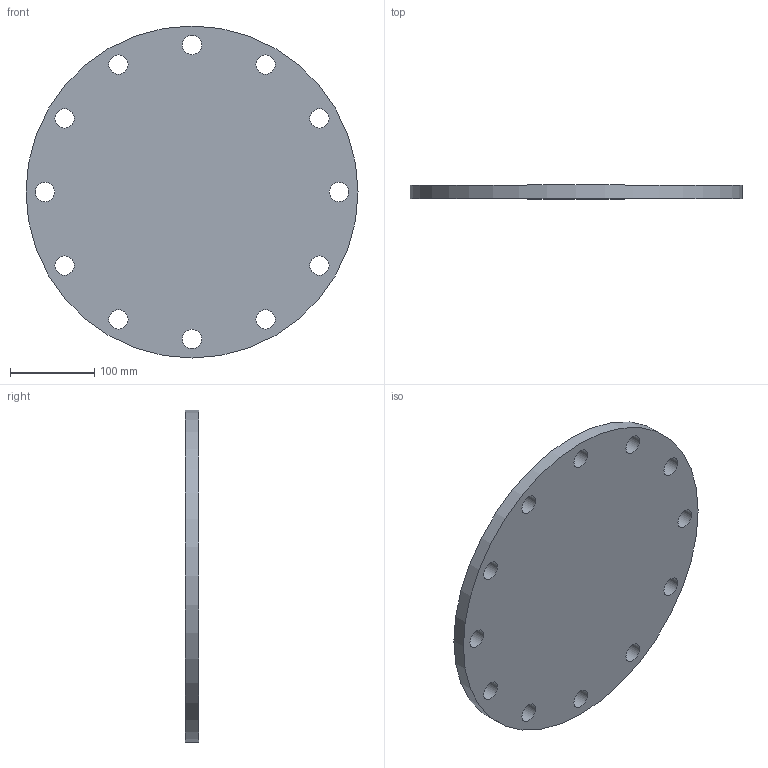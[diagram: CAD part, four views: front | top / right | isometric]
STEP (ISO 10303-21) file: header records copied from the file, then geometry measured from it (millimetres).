
FILE_DESCRIPTION(/* description */ (''),/* implementation_level */ '2;1');
FILE_NAME(/* name */ 'Z:\Geberit\Export\NewStep\371748.stp',/* time_stamp */ '2014-04-02T08:05:51+02:00',/* author */ ('nelson'),/* organization */ (''),/* preprocessor_version */ 'ST-DEVELOPER v15.2',/* originating_system */ 'Autodesk Inventor 2014',/* authorisation */ '');
FILE_SCHEMA (('AUTOMOTIVE_DESIGN { 1 0 10303 214 3 1 1 }'));
Length unit declared in the file: millimetre
Products named in the file (1): 371748
Bounding box: 395 x 16 x 395 mm (x, y, z)
Volume: 1880896.7 mm3; surface area: 268840.2 mm2
Topology: 1 solids, 1 shells, 15 faces, 39 edges, 26 vertices
Faces by surface type: cylinder 13, plane 2
Full cylindrical faces by diameter (mm): 23 x12, 395 x1
Entity records: 483 total; most frequent: DIRECTION 84, CARTESIAN_POINT 68, EDGE_LOOP 52, ORIENTED_EDGE 52, AXIS2_PLACEMENT_3D 42, FACE_BOUND 39, CIRCLE 26, VERTEX_POINT 26
